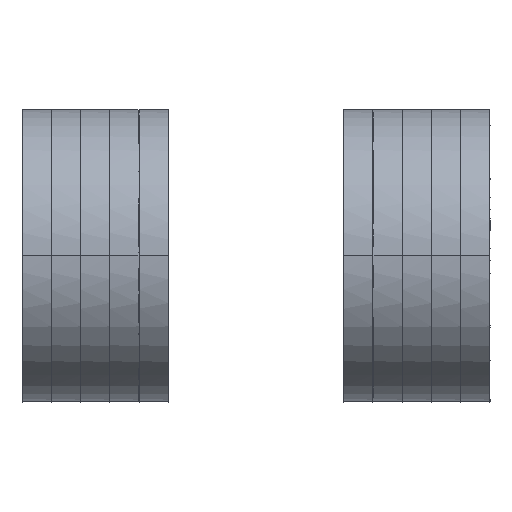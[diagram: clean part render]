
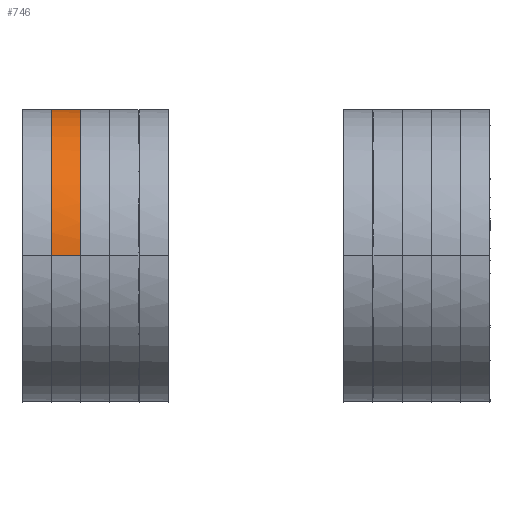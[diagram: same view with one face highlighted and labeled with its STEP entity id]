
A CAD part, front view. The second image highlights one B-rep face of the part: STEP entity #746.
In plain terms, the highlighted free-form (B-spline) face has degree [1, 2] with [2, 9] control points.
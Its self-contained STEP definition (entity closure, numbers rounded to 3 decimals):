
#746=ADVANCED_FACE('',(#806),#2541,.T.);
#806=FACE_OUTER_BOUND('',#871,.T.);
#871=EDGE_LOOP('',(#981,#982,#983,#984));
#981=ORIENTED_EDGE('',*,*,#1941,.T.);
#982=ORIENTED_EDGE('',*,*,#1942,.T.);
#983=ORIENTED_EDGE('',*,*,#1943,.T.);
#984=ORIENTED_EDGE('',*,*,#1944,.T.);
#1171=(
BOUNDED_CURVE()
B_SPLINE_CURVE(2,(#3295,#3296,#3297,#3298,#3299),.UNSPECIFIED.,.F.,.F.)
B_SPLINE_CURVE_WITH_KNOTS((3,2,3),(1.,2.571,4.142),
 .UNSPECIFIED.)
CURVE()
GEOMETRIC_REPRESENTATION_ITEM()
RATIONAL_B_SPLINE_CURVE((1.,0.707,1.,0.707,1.))
REPRESENTATION_ITEM('')
);
#1172=(
BOUNDED_CURVE()
B_SPLINE_CURVE(2,(#3306,#3307,#3308,#3309,#3310),.UNSPECIFIED.,.F.,.F.)
B_SPLINE_CURVE_WITH_KNOTS((3,2,3),(5.142,6.712,8.283),
 .UNSPECIFIED.)
CURVE()
GEOMETRIC_REPRESENTATION_ITEM()
RATIONAL_B_SPLINE_CURVE((1.,0.707,1.,0.707,1.))
REPRESENTATION_ITEM('')
);
#1341=PCURVE('',#2541,#1541);
#1342=PCURVE('',#2541,#1542);
#1343=PCURVE('',#2541,#1543);
#1344=PCURVE('',#2541,#1544);
#1541=DEFINITIONAL_REPRESENTATION('',(#2152),#5174);
#1542=DEFINITIONAL_REPRESENTATION('',(#2153),#5174);
#1543=DEFINITIONAL_REPRESENTATION('',(#2155),#5174);
#1544=DEFINITIONAL_REPRESENTATION('',(#2156),#5174);
#1741=SURFACE_CURVE('',#2151,(#1341),.PCURVE_S1.);
#1742=SURFACE_CURVE('',#1171,(#1342),.PCURVE_S1.);
#1743=SURFACE_CURVE('',#2154,(#1343),.PCURVE_S1.);
#1744=SURFACE_CURVE('',#1172,(#1344),.PCURVE_S1.);
#1941=EDGE_CURVE('',#2381,#2382,#1741,.T.);
#1942=EDGE_CURVE('',#2382,#2383,#1742,.T.);
#1943=EDGE_CURVE('',#2383,#2384,#1743,.T.);
#1944=EDGE_CURVE('',#2384,#2381,#1744,.T.);
#2151=B_SPLINE_CURVE_WITH_KNOTS('',1,(#3291,#3292),.UNSPECIFIED.,.F.,.F.,
(2,2),(0.,1.),.UNSPECIFIED.);
#2152=B_SPLINE_CURVE_WITH_KNOTS('',1,(#3293,#3294),.UNSPECIFIED.,.F.,.F.,
(2,2),(0.,1.),.UNSPECIFIED.);
#2153=B_SPLINE_CURVE_WITH_KNOTS('',1,(#3300,#3301),.UNSPECIFIED.,.F.,.F.,
(2,2),(1.,4.142),.UNSPECIFIED.);
#2154=B_SPLINE_CURVE_WITH_KNOTS('',1,(#3302,#3303),.UNSPECIFIED.,.F.,.F.,
(2,2),(4.142,5.142),.UNSPECIFIED.);
#2155=B_SPLINE_CURVE_WITH_KNOTS('',1,(#3304,#3305),.UNSPECIFIED.,.F.,.F.,
(2,2),(4.142,5.142),.UNSPECIFIED.);
#2156=B_SPLINE_CURVE_WITH_KNOTS('',1,(#3311,#3312),.UNSPECIFIED.,.F.,.F.,
(2,2),(5.142,8.283),.UNSPECIFIED.);
#2381=VERTEX_POINT('',#3287);
#2382=VERTEX_POINT('',#3288);
#2383=VERTEX_POINT('',#3289);
#2384=VERTEX_POINT('',#3290);
#2541=(
BOUNDED_SURFACE()
B_SPLINE_SURFACE(1,2,((#3269,#3270,#3271,#3272,#3273,#3274,#3275,#3276,#3277),
(#3278,#3279,#3280,#3281,#3282,#3283,#3284,#3285,#3286)),.UNSPECIFIED.,.F.,
 .F.,.F.)
B_SPLINE_SURFACE_WITH_KNOTS((2,2),(3,2,2,2,3),(0.,1.),(0.,1.571,
3.142,4.712,6.283),.UNSPECIFIED.)
GEOMETRIC_REPRESENTATION_ITEM()
RATIONAL_B_SPLINE_SURFACE(((1.,0.707,1.,0.707,1.,
0.707,1.,0.707,1.),(1.,0.707,1.,0.707,
1.,0.707,1.,0.707,1.)))
REPRESENTATION_ITEM('')
SURFACE()
);
#3269=CARTESIAN_POINT('',(789.,-206.,150.));
#3270=CARTESIAN_POINT('',(789.,-206.,145.));
#3271=CARTESIAN_POINT('',(789.,-201.,145.));
#3272=CARTESIAN_POINT('',(789.,-196.,145.));
#3273=CARTESIAN_POINT('',(789.,-196.,150.));
#3274=CARTESIAN_POINT('',(789.,-196.,155.));
#3275=CARTESIAN_POINT('',(789.,-201.,155.));
#3276=CARTESIAN_POINT('',(789.,-206.,155.));
#3277=CARTESIAN_POINT('',(789.,-206.,150.));
#3278=CARTESIAN_POINT('',(790.,-206.,150.));
#3279=CARTESIAN_POINT('',(790.,-206.,145.));
#3280=CARTESIAN_POINT('',(790.,-201.,145.));
#3281=CARTESIAN_POINT('',(790.,-196.,145.));
#3282=CARTESIAN_POINT('',(790.,-196.,150.));
#3283=CARTESIAN_POINT('',(790.,-196.,155.));
#3284=CARTESIAN_POINT('',(790.,-201.,155.));
#3285=CARTESIAN_POINT('',(790.,-206.,155.));
#3286=CARTESIAN_POINT('',(790.,-206.,150.));
#3287=CARTESIAN_POINT('',(790.,-206.,150.));
#3288=CARTESIAN_POINT('',(789.,-206.,150.));
#3289=CARTESIAN_POINT('',(789.,-196.,150.));
#3290=CARTESIAN_POINT('',(790.,-196.,150.));
#3291=CARTESIAN_POINT('',(790.,-206.,150.));
#3292=CARTESIAN_POINT('',(789.,-206.,150.));
#3293=CARTESIAN_POINT('',(1.,6.283));
#3294=CARTESIAN_POINT('',(0.,6.283));
#3295=CARTESIAN_POINT('',(789.,-206.,150.));
#3296=CARTESIAN_POINT('',(789.,-206.,155.));
#3297=CARTESIAN_POINT('',(789.,-201.,155.));
#3298=CARTESIAN_POINT('',(789.,-196.,155.));
#3299=CARTESIAN_POINT('',(789.,-196.,150.));
#3300=CARTESIAN_POINT('',(0.,6.283));
#3301=CARTESIAN_POINT('',(0.,3.142));
#3302=CARTESIAN_POINT('',(789.,-196.,150.));
#3303=CARTESIAN_POINT('',(790.,-196.,150.));
#3304=CARTESIAN_POINT('',(0.,3.142));
#3305=CARTESIAN_POINT('',(1.,3.142));
#3306=CARTESIAN_POINT('',(790.,-196.,150.));
#3307=CARTESIAN_POINT('',(790.,-196.,155.));
#3308=CARTESIAN_POINT('',(790.,-201.,155.));
#3309=CARTESIAN_POINT('',(790.,-206.,155.));
#3310=CARTESIAN_POINT('',(790.,-206.,150.));
#3311=CARTESIAN_POINT('',(1.,3.142));
#3312=CARTESIAN_POINT('',(1.,6.283));
#5174=(
GEOMETRIC_REPRESENTATION_CONTEXT(2)
PARAMETRIC_REPRESENTATION_CONTEXT()
REPRESENTATION_CONTEXT('pspace','')
);
